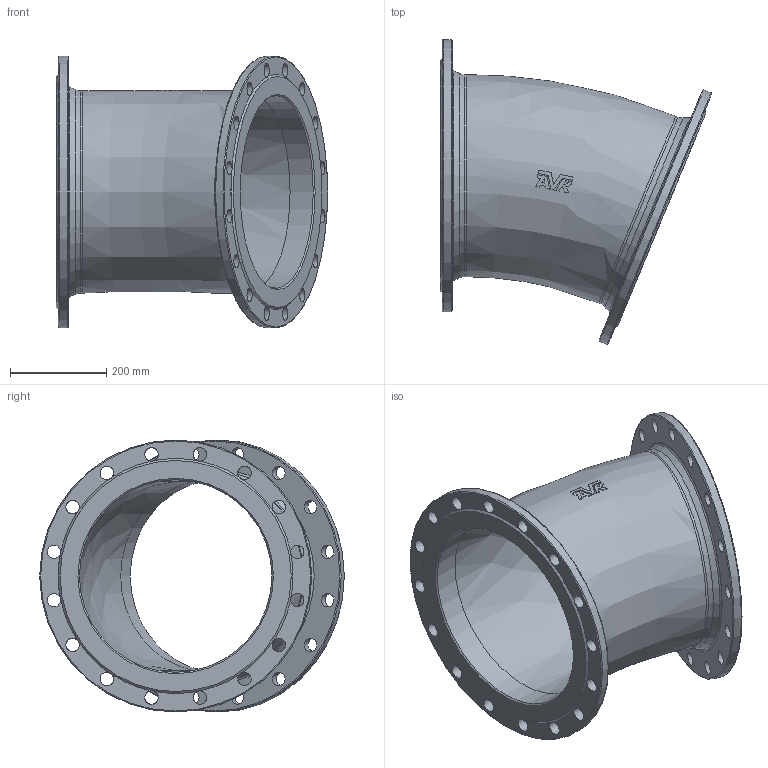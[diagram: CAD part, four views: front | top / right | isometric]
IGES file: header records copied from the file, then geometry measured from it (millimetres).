
Start section: SolidWorks IGES file using analytic representation for surfaces
Global section: file name: \\avksan2\techshare\PBM outline export from Enovia\O_712_0210_DN400_0X_REV01.igs; native system: SolidWorks 2022; preprocessor: SolidWorks 2022; author: pbm; date: 240815.142427; units: millimetre
Bounding box: 563.6 x 632.81 x 565 mm (x, y, z)
Surface area: 2150766.4 mm2 (no closed solid volume)
Topology: 0 solids, 0 shells, 102 faces, 627 edges, 572 vertices
Faces by surface type: revolution 61, bspline 41
